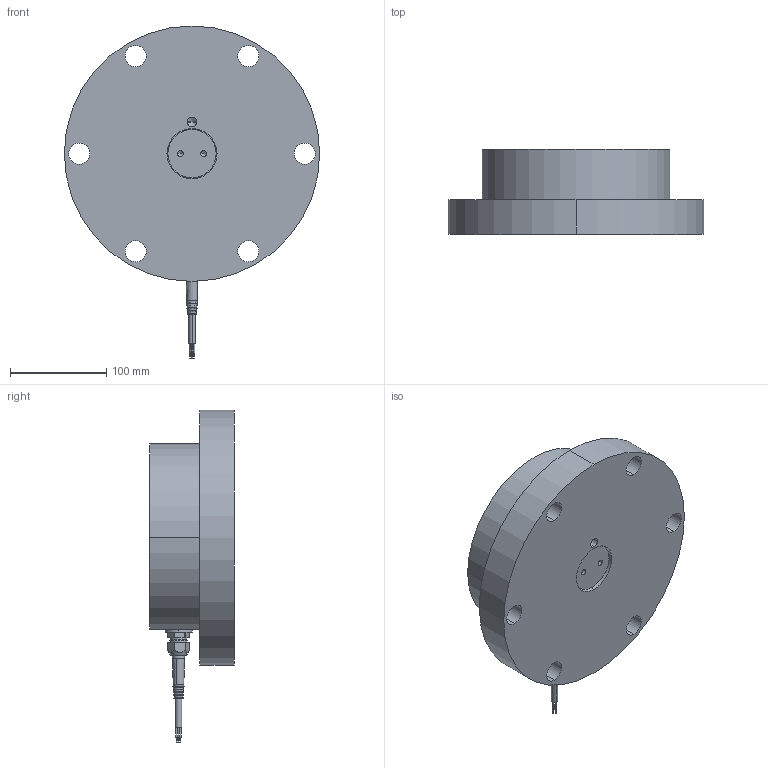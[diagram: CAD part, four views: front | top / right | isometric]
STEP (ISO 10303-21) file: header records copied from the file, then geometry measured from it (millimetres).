
FILE_DESCRIPTION (( 'STEP AP214' ), '1' );
FILE_NAME ('CLC-1 1 MN With Adapter Plate.STEP', '2021-06-17T08:17:18', ( '' ), ( '' ), 'SwSTEP 2.0', 'SolidWorks 2021', '' );
FILE_SCHEMA (( 'AUTOMOTIVE_DESIGN' ));
Length unit declared in the file: millimetre
Products named in the file (9): 501873r0; 501872r1; 501928r0; 600968r0; M26x1.5 - Pg9 - 6369829; CLC-1 1 MN With Adapter Plate; 501881r0; Pg9 - 1009.52 6_2_14; Standardkabel 4-Cond PVC
Assembly tree (9 placements, depth 3):
  CLC-1 1 MN With Adapter Plate
    501873r0
    501928r0
      501872r1
      501881r0  x2
      M26x1.5 - Pg9 - 6369829
      Pg9 - 1009.52 6_2_14
      Standardkabel 4-Cond PVC
    600968r0
Bounding box: 265 x 88 x 344.5 mm (x, y, z)
Volume: 3187903.3 mm3; surface area: 345049.1 mm2
Topology: 8 solids, 11 shells, 296 faces, 680 edges, 433 vertices
Faces by surface type: cylinder 142, plane 67, cone 53, torus 18, bspline 16
Entity records: 13654 total; most frequent: CARTESIAN_POINT 5798, DIRECTION 1472, ORIENTED_EDGE 1324, EDGE_CURVE 662, AXIS2_PLACEMENT_3D 638, VERTEX_POINT 425, EDGE_LOOP 365, CIRCLE 351
